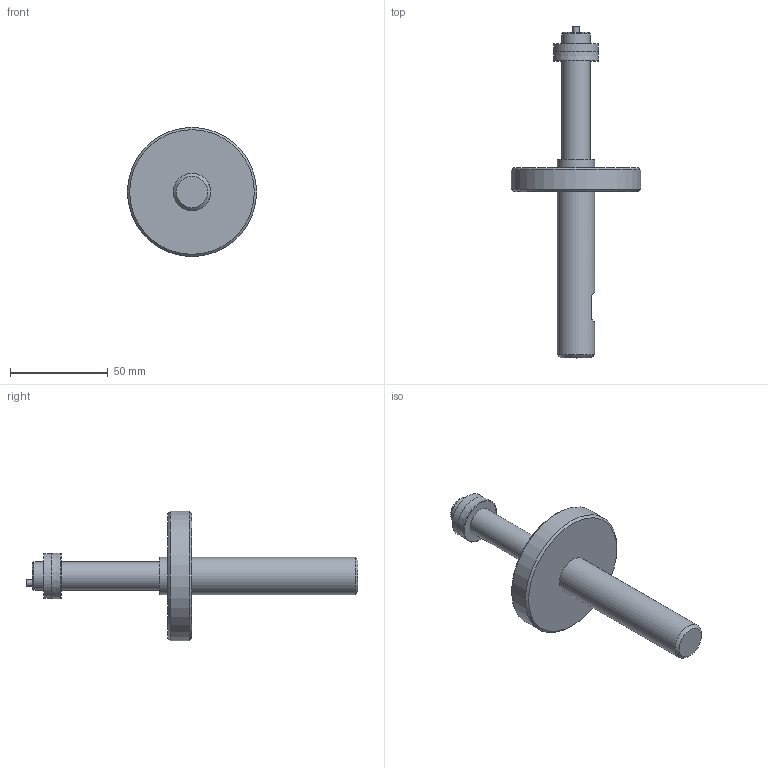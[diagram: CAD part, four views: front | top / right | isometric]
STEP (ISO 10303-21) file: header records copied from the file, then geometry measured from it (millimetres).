
FILE_DESCRIPTION (( 'STEP AP203' ), '1' );
FILE_NAME ('AF56-SIMPLE - AF56-14.50-23.50M.step', '2025-01-22T13:30:59', ( '' ), ( '' ), 'SwSTEP 2.0', 'SolidWorks 2024', '' );
FILE_SCHEMA (( 'CONFIG_CONTROL_DESIGN' ));
Length unit declared in the file: inch
Products named in the file (1): AF56-SIMPLE - AF56-14.50-23.50M
Bounding box: 66.04 x 169.8 x 66.04 mm (x, y, z)
Volume: 79597.6 mm3; surface area: 18105.6 mm2
Topology: 1 solids, 1 shells, 24 faces, 40 edges, 25 vertices
Faces by surface type: plane 11, cylinder 7, cone 5, torus 1
Full cylindrical faces by diameter (mm): 3.175 x1, 14.376 x2, 19.05 x2, 22.994 x1, 66.04 x1
Entity records: 569 total; most frequent: DIRECTION 94, CARTESIAN_POINT 81, ORIENTED_EDGE 52, AXIS2_PLACEMENT_3D 45, EDGE_LOOP 44, FACE_OUTER_BOUND 32, EDGE_CURVE 26, VERTEX_POINT 24
